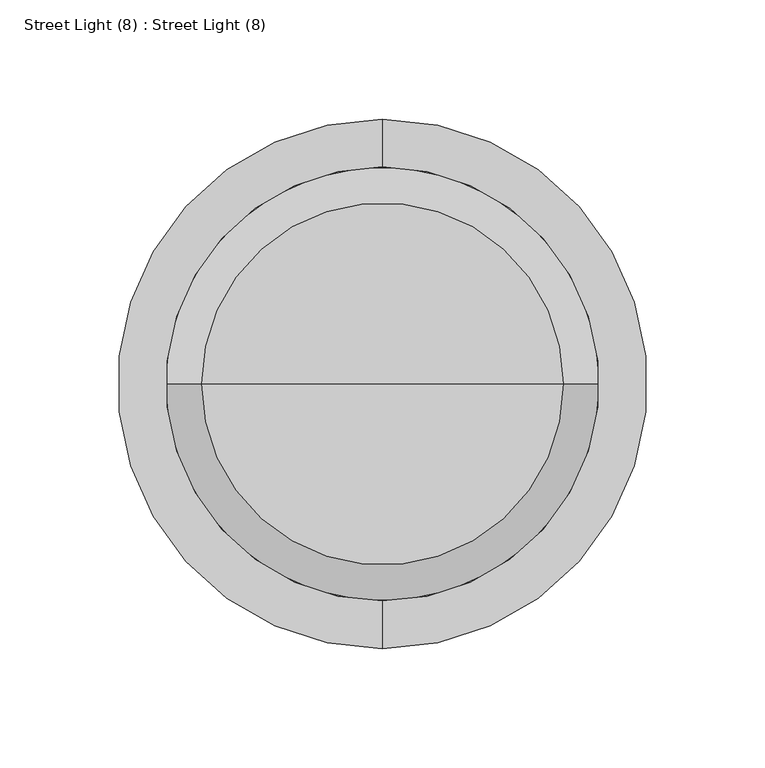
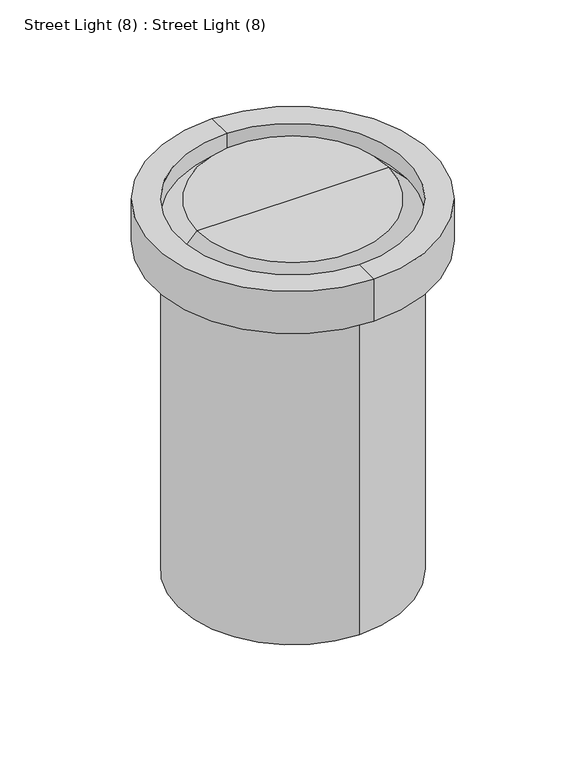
"""IFC4 building model written with IfcOpenShell, lengths in millimetres: light fixture geometry, Street Light (8) : Street Light (8)."""

from ifc_helpers import new_model, si_unit, frame, origin, place, context, project, spatial, polyline, circle_curve, source, transform, mapped, element, save
from ifc_brep_helpers import plane_surface, cylinder_surface, revolved_surface, advanced_brep


def street_light_8_street_light_8_87dfb617(model_context):
    return source(origin(), model_context, "Body", "AdvancedBrep", [
        advanced_brep(
        [(-66.0, 0.0, -25.0), (116.0, 0.0, -25.0), (25.0, 0.0, -25.0), (-66.0, 0.0, -15.0), (116.0, 0.0, -15.0), (-51.0, 0.0, 0.0), (101.0, 0.0, 0.0), (25.0, 0.0, 0.0)],
        [
            (0, 1, circle_curve(frame((25.0, 0.0, -25.0), z_axis=(0.0, 0.0, -1.0), x_axis=(1.0, 0.0, 0.0)), 91.0)),
            (1, 2),
            (2, 0),
            (1, 0, circle_curve(frame((25.0, 0.0, -25.0), z_axis=(0.0, 0.0, -1.0), x_axis=(1.0, 0.0, 0.0)), 91.0)),
            (3, 4, circle_curve(frame((25.0, 0.0, -15.0), z_axis=(0.0, 0.0, -1.0), x_axis=(1.0, 0.0, 0.0)), 91.0)),
            (4, 1),
            (0, 3),
            (4, 3, circle_curve(frame((25.0, 0.0, -15.0), z_axis=(0.0, 0.0, -1.0), x_axis=(1.0, 0.0, 0.0)), 91.0)),
            (5, 6, circle_curve(frame((25.0, 0.0, 0.0), z_axis=(0.0, 0.0, -1.0), x_axis=(1.0, 0.0, 0.0)), 76.0)),
            (6, 4),
            (3, 5),
            (6, 5, circle_curve(frame((25.0, 0.0, 0.0), z_axis=(0.0, 0.0, -1.0), x_axis=(1.0, 0.0, 0.0)), 76.0)),
            (7, 6),
            (5, 7),
        ],
        [
            plane_surface(frame((25.0, 0.0, -25.0), z_axis=(0.0, 0.0, -1.0), x_axis=(1.0, 0.0, 0.0))),
            cylinder_surface(frame((25.0, 0.0, 25.0), z_axis=(0.0, 0.0, 1.0), x_axis=(1.0, 0.0, 0.0)), 91.0),
            revolved_surface(polyline([(116.0, 0.0, -15.0), (101.0, 0.0, 0.0)]), (25.0, 0.0, 25.0), (0.0, 0.0, 1.0)),
            plane_surface(frame((25.0, 0.0, 0.0), z_axis=(0.0, 0.0, 1.0), x_axis=(1.0, 0.0, 0.0))),
        ],
        [
            (0, [[1, 2, 3]]),
            (0, [[4, -3, -2]]),
            (1, [[5, 6, -1, 7]]),
            (1, [[8, -7, -4, -6]]),
            (2, [[9, 10, -5, 11]]),
            (2, [[12, -11, -8, -10]]),
            (3, [[13, -9, 14]]),
            (3, [[-14, -12, -13]]),
        ],
    ),
        advanced_brep(
        [(25.0, -91.0, -310.0), (25.0, 91.0, -310.0), (25.0, 0.0, -310.0), (25.0, -91.0, -35.0), (25.0, 91.0, -35.0), (25.0, -111.0, -35.0), (25.0, 111.0, -35.0), (25.0, -111.0, 0.0), (25.0, 111.0, 0.0), (25.0, -91.0, 0.0), (25.0, 91.0, 0.0), (25.0, -91.0, -25.0), (25.0, 91.0, -25.0), (25.0, 0.0, -25.0)],
        [
            (0, 1, circle_curve(frame((25.0, 0.0, -310.0), z_axis=(0.0, 0.0, -1.0), x_axis=(0.0, 0.9999999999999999, 0.0)), 91.0)),
            (1, 2),
            (2, 0),
            (1, 0, circle_curve(frame((25.0, 0.0, -310.0), z_axis=(0.0, 0.0, -1.0), x_axis=(0.0, 0.9999999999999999, 0.0)), 91.0)),
            (3, 4, circle_curve(frame((25.0, 0.0, -35.0), z_axis=(0.0, 0.0, -1.0), x_axis=(0.0, 0.9999999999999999, 0.0)), 91.0)),
            (4, 1),
            (0, 3),
            (4, 3, circle_curve(frame((25.0, 0.0, -35.0), z_axis=(0.0, 0.0, -1.0), x_axis=(0.0, 0.9999999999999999, 0.0)), 91.0)),
            (5, 6, circle_curve(frame((25.0, 0.0, -35.0), z_axis=(0.0, 0.0, -1.0), x_axis=(0.0, 0.9999999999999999, 0.0)), 111.0)),
            (6, 4),
            (3, 5),
            (6, 5, circle_curve(frame((25.0, 0.0, -35.0), z_axis=(0.0, 0.0, -1.0), x_axis=(0.0, 0.9999999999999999, 0.0)), 111.0)),
            (7, 8, circle_curve(frame((25.0, 0.0, 0.0), z_axis=(0.0, 0.0, -1.0), x_axis=(0.0, 0.9999999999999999, 0.0)), 111.0)),
            (8, 6),
            (5, 7),
            (8, 7, circle_curve(frame((25.0, 0.0, 0.0), z_axis=(0.0, 0.0, -1.0), x_axis=(0.0, 0.9999999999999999, 0.0)), 111.0)),
            (9, 10, circle_curve(frame((25.0, 0.0, 0.0), z_axis=(0.0, 0.0, -1.0), x_axis=(0.0, 0.9999999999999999, 0.0)), 91.0)),
            (10, 8),
            (7, 9),
            (10, 9, circle_curve(frame((25.0, 0.0, 0.0), z_axis=(0.0, 0.0, -1.0), x_axis=(0.0, 0.9999999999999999, 0.0)), 91.0)),
            (11, 12, circle_curve(frame((25.0, 0.0, -25.0), z_axis=(0.0, 0.0, -1.0), x_axis=(0.0, 0.9999999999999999, 0.0)), 91.0)),
            (12, 10),
            (9, 11),
            (12, 11, circle_curve(frame((25.0, 0.0, -25.0), z_axis=(0.0, 0.0, -1.0), x_axis=(0.0, 0.9999999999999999, 0.0)), 91.0)),
            (13, 12),
            (11, 13),
        ],
        [
            plane_surface(frame((25.0, 0.0, -310.0), z_axis=(0.0, 0.0, -1.0), x_axis=(0.0, 1.0, 0.0))),
            cylinder_surface(frame((25.0, 0.0, 40.0), z_axis=(0.0, 0.0, 0.9999999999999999), x_axis=(0.0, 0.9999999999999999, 0.0)), 91.0),
            plane_surface(frame((25.0, 0.0, -35.0), z_axis=(0.0, 0.0, -1.0), x_axis=(0.0, 1.0, 0.0))),
            cylinder_surface(frame((25.0, 0.0, 40.0), z_axis=(0.0, 0.0, 0.9999999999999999), x_axis=(0.0, 0.9999999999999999, 0.0)), 111.0),
            plane_surface(frame((25.0, 0.0, 0.0), z_axis=(0.0, 0.0, 1.0), x_axis=(0.0, 1.0, 0.0))),
            revolved_surface(polyline([(25.0, 90.99999999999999, 1.4210854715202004e-14), (25.0, 90.99999999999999, -24.99999999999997)]), (25.0, 0.0, 40.0), (0.0, 0.0, 0.9999999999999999)),
            plane_surface(frame((25.0, 0.0, -25.0), z_axis=(0.0, 0.0, 1.0), x_axis=(0.0, 1.0, 0.0))),
        ],
        [
            (0, [[1, 2, 3]]),
            (0, [[4, -3, -2]]),
            (1, [[5, 6, -1, 7]]),
            (1, [[8, -7, -4, -6]]),
            (2, [[9, 10, -5, 11]]),
            (2, [[12, -11, -8, -10]]),
            (3, [[13, 14, -9, 15]]),
            (3, [[16, -15, -12, -14]]),
            (4, [[17, 18, -13, 19]]),
            (4, [[20, -19, -16, -18]]),
            (5, [[21, 22, -17, 23]]),
            (5, [[24, -23, -20, -22]]),
            (6, [[25, -21, 26]]),
            (6, [[-26, -24, -25]]),
        ],
    ),
    ])


if __name__ == "__main__":
    model = new_model("IFC4")
    model_context = context("Model", 3, world=origin())
    ifc_project = project(units=[si_unit("LENGTHUNIT", "METRE", prefix="MILLI")], contexts=[model_context])
    site = spatial("IfcSite", under=ifc_project)
    building = spatial("IfcBuilding", under=site)
    placement = place(None, origin())
    street_light_8_street_light_8_shape = street_light_8_street_light_8_87dfb617(model_context)
    element("IfcLightFixture", 1, ObjectType="Street Light (8) : Street Light (8)", at=placement, inside=building, context=model_context, shape_type="MappedRepresentation", body=[
        mapped(street_light_8_street_light_8_shape, transform((0.0, 0.0, 0.0), x_axis=(1.0, 0.0, 0.0), y_axis=(0.0, 1.0, 0.0), z_axis=(0.0, 0.0, 1.0))),
    ])
    save(model, "model.ifc")
